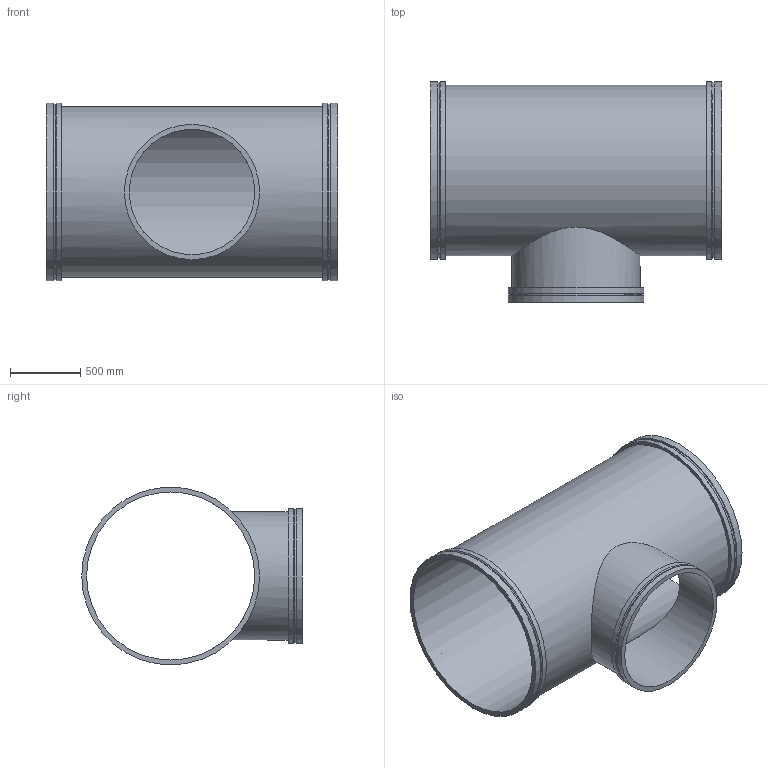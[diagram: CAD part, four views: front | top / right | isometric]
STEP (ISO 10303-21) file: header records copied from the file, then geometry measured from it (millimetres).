
FILE_DESCRIPTION(/* description */ ('VIC REDUCING TEE No W025 VR','CAx-IF Rec.Pracs.---Representation and Presentation of Product Manufacturing Information (PMI)---4.0---2014-10-13'),/* implementation_level */ '2;1');
FILE_NAME(/* name */ 'C:\Users\kkamble\AppData\Roaming\Autodesk\ApplicationPlugins\Back Up\Victaulic_Vic-Ring_Tee Reducing_No W25 VR (AGR)\Victaulic_Vic-Ring_Tee Reducing_No W25 VR (AGR)_48.0x36.0 (1200x900).stp',/* time_stamp */ '2020-09-10T11:57:19+05:00',/* author */ ('mchristi'),/* organization */ ('Victaulic'),/* preprocessor_version */ 'ST-DEVELOPER v17.2',/* originating_system */ 'Autodesk Inventor 2019',/* authorisation */ '');
FILE_SCHEMA (('AP242_MANAGED_MODEL_BASED_3D_ENGINEERING_MIM_LF { 1 0 10303 442 1 1 4 }'));
Length unit declared in the file: inch
Products named in the file (1): W25 VR-48.0x36.0
Bounding box: 2082.8 x 1574.8 x 1270 mm (x, y, z)
Volume: 108083563.4 mm3; surface area: 17699394.4 mm2
Topology: 1 solids, 1 shells, 25 faces, 68 edges, 52 vertices
Faces by surface type: cylinder 13, plane 9, cone 3
Full cylindrical faces by diameter (mm): 895.35 x1, 914.4 x1, 950.722 x1, 965.2 x2, 1200.15 x1, 1219.2 x1, 1254.125 x2, 1270 x4
Entity records: 1267 total; most frequent: CARTESIAN_POINT 423, DIRECTION 190, ORIENTED_EDGE 136, AXIS2_PLACEMENT_3D 87, EDGE_CURVE 68, VERTEX_POINT 52, CIRCLE 48, EDGE_LOOP 36
